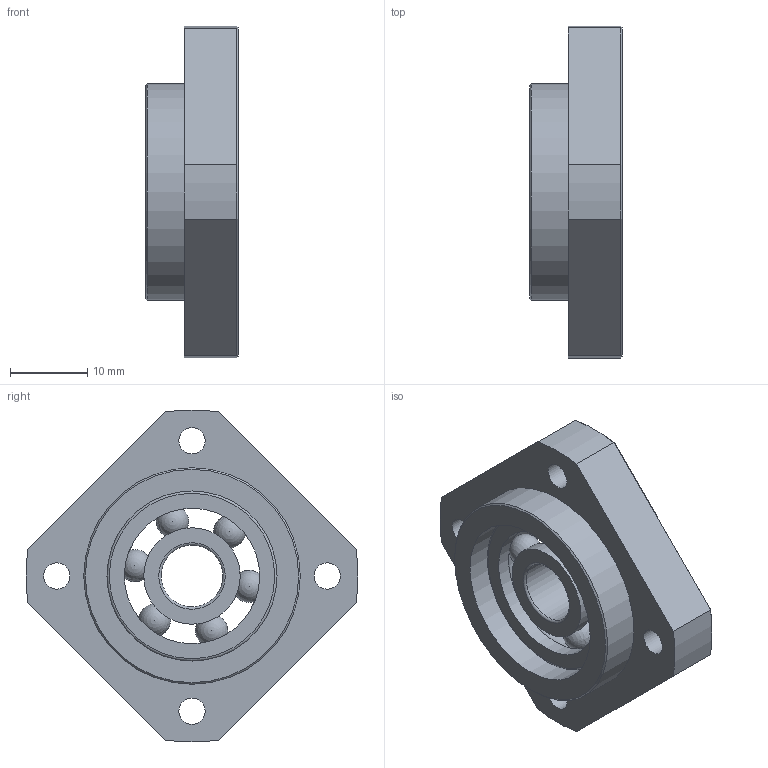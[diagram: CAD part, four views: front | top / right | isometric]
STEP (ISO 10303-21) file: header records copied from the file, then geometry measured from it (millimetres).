
FILE_DESCRIPTION(/* description */ (''),/* implementation_level */ '2;1');
FILE_NAME(/* name */ 'C:\Users\Nick_2\Dropbox\WG Projekte\Kamp und Kötter\Artikel\Lagerset Flanschlager (FK-FF)\02_STEP-Dateien\FF10-Flanschloslager-20160127.stp',/* time_stamp */ '2016-01-27T18:07:12+01:00',/* author */ ('Nick_2'),/* organization */ (''),/* preprocessor_version */ 'ST-DEVELOPER v15.6',/* originating_system */ 'Autodesk Inventor 2015',/* authorisation */ '');
FILE_SCHEMA (('AUTOMOTIVE_DESIGN { 1 0 10303 214 3 1 1 }'));
Length unit declared in the file: millimetre
Products named in the file (3): FF10_Flanschloslager; DIN 625 SKF - SKF 608; FF10-Flanschloslager-20160126
Assembly tree (2 placements, depth 2):
  FF10-Flanschloslager-20160126
    FF10_Flanschloslager
    DIN 625 SKF - SKF 608
Bounding box: 12 x 42.93 x 42.93 mm (x, y, z)
Volume: 7655 mm3; surface area: 6213.5 mm2
Topology: 2 solids, 2 shells, 70 faces, 197 edges, 126 vertices
Faces by surface type: cylinder 20, plane 19, torus 16, cone 9, sphere 6
Full cylindrical faces by diameter (mm): 3.4 x4, 6.5 x4, 8 x1, 12.48 x2, 17.52 x2, 22 x2, 28 x1
Entity records: 2626 total; most frequent: CARTESIAN_POINT 993, DIRECTION 316, ORIENTED_EDGE 298, EDGE_CURVE 149, AXIS2_PLACEMENT_3D 148, EDGE_LOOP 120, VERTEX_POINT 109, CIRCLE 73
